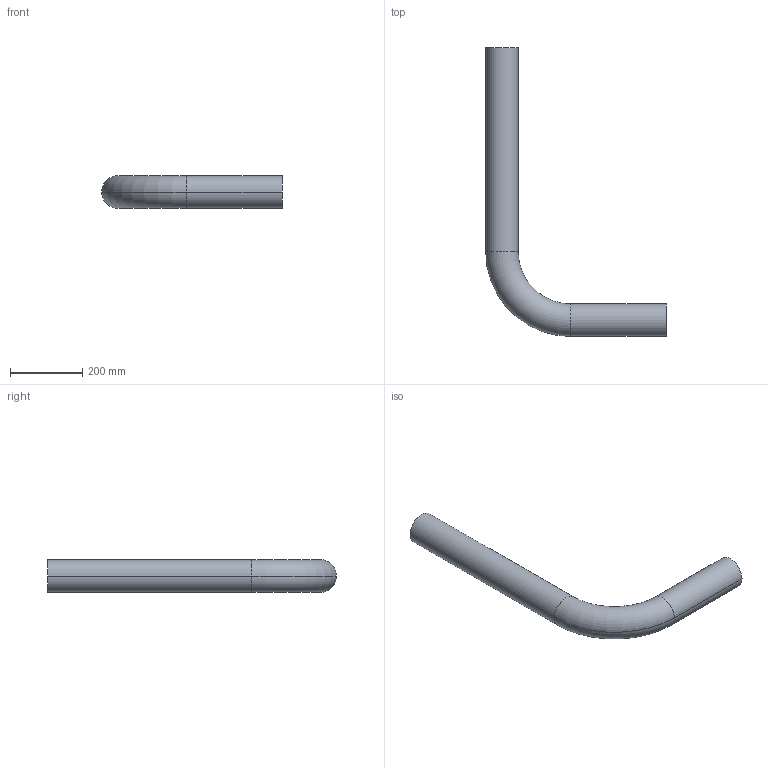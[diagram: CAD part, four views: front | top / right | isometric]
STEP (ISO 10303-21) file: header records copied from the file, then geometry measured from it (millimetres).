
FILE_DESCRIPTION (( 'STEP AP214' ), '1' );
FILE_NAME ('KP_3-90FCL.step', '2012-12-14T08:58:48', ( '' ), ( '' ), 'SwSTEP 2.0', 'SolidWorks 2012', '' );
FILE_SCHEMA (( 'AUTOMOTIVE_DESIGN' ));
Length unit declared in the file: millimetre
Products named in the file (1): KP_3-90FCL
Bounding box: 500 x 800 x 90 mm (x, y, z)
Volume: 2584402.9 mm3; surface area: 578892.2 mm2
Topology: 1 solids, 1 shells, 14 faces, 28 edges, 16 vertices
Faces by surface type: cylinder 8, torus 4, plane 2
Entity records: 406 total; most frequent: DIRECTION 78, CARTESIAN_POINT 59, ORIENTED_EDGE 56, AXIS2_PLACEMENT_3D 35, EDGE_CURVE 28, CIRCLE 20, VERTEX_POINT 16, EDGE_LOOP 16
